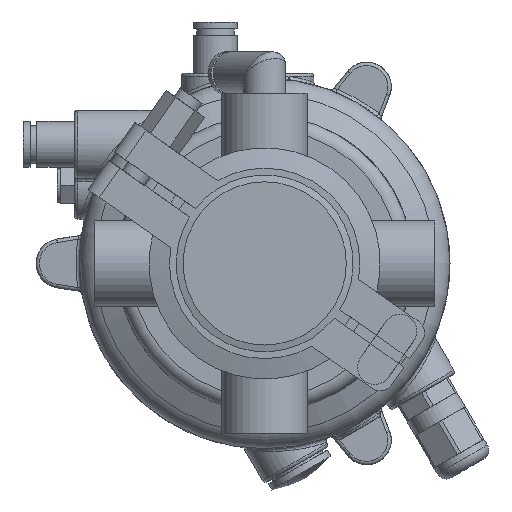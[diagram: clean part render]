
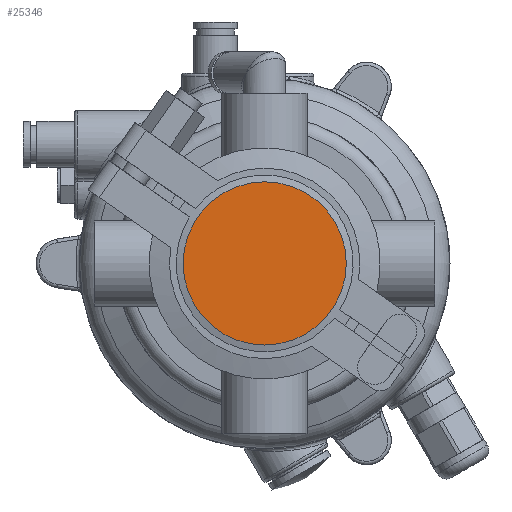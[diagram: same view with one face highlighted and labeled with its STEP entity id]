
A CAD part, front view. The second image highlights one B-rep face of the part: STEP entity #25346.
In plain terms, the highlighted planar face has unit normal (0, -1, 0).
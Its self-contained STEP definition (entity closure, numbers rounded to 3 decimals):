
#1412 = VERTEX_POINT ( 'NONE', #38166 ) ;
#2657 = DIRECTION ( 'NONE',  ( 0., 1., 0. ) ) ;
#3383 = AXIS2_PLACEMENT_3D ( 'NONE', #31061, #8034, #17373 ) ;
#7460 = EDGE_CURVE ( 'NONE', #1412, #1412, #41844, .T. ) ;
#8034 = DIRECTION ( 'NONE',  ( 0., -1., 0. ) ) ;
#10773 = AXIS2_PLACEMENT_3D ( 'NONE', #12603, #2657, #22336 ) ;
#12603 = CARTESIAN_POINT ( 'NONE',  ( 0., 0., 0. ) ) ;
#12732 = ORIENTED_EDGE ( 'NONE', *, *, #7460, .F. ) ;
#17373 = DIRECTION ( 'NONE',  ( 0., 0., -1. ) ) ;
#22336 = DIRECTION ( 'NONE',  ( 0., 0., 1. ) ) ;
#25346 = ADVANCED_FACE ( 'NONE', ( #53273 ), #30487, .T. ) ;
#28634 = EDGE_LOOP ( 'NONE', ( #12732 ) ) ;
#30487 = PLANE ( 'NONE',  #3383 ) ;
#31061 = CARTESIAN_POINT ( 'NONE',  ( -24., 0., 0. ) ) ;
#38166 = CARTESIAN_POINT ( 'NONE',  ( 0., 0., 24. ) ) ;
#41844 = CIRCLE ( 'NONE', #10773, 24. ) ;
#53273 = FACE_OUTER_BOUND ( 'NONE', #28634, .T. ) ;
